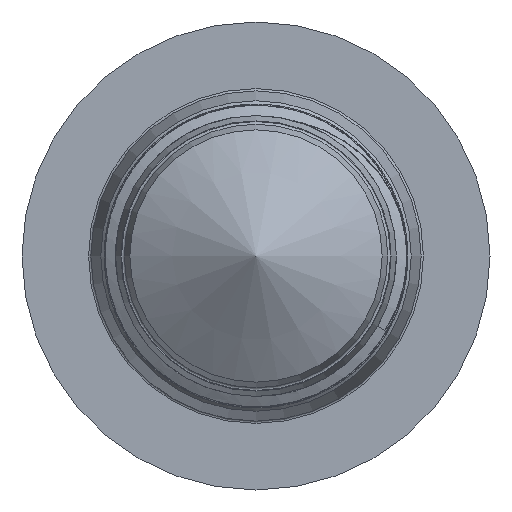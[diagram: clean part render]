
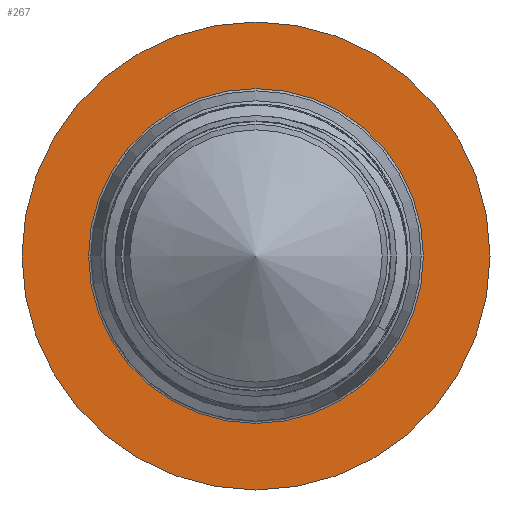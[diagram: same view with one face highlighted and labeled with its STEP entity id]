
A CAD part, left-side view. The second image highlights one B-rep face of the part: STEP entity #267.
In plain terms, the highlighted planar face has unit normal (-1, 0, 0).
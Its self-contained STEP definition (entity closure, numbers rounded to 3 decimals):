
#15=PLANE('',#292);
#20=FACE_BOUND('',#73,.T.);
#50=FACE_OUTER_BOUND('',#72,.T.);
#72=EDGE_LOOP('',(#227));
#73=EDGE_LOOP('',(#228));
#99=CIRCLE('',#291,0.813);
#100=CIRCLE('',#293,0.581);
#143=VERTEX_POINT('',#2288);
#144=VERTEX_POINT('',#2291);
#176=EDGE_CURVE('',#143,#143,#99,.T.);
#177=EDGE_CURVE('',#144,#144,#100,.T.);
#227=ORIENTED_EDGE('',*,*,#176,.T.);
#228=ORIENTED_EDGE('',*,*,#177,.F.);
#267=ADVANCED_FACE('',(#50,#20),#15,.T.);
#291=AXIS2_PLACEMENT_3D('',#2289,#336,#337);
#292=AXIS2_PLACEMENT_3D('',#2290,#338,#339);
#293=AXIS2_PLACEMENT_3D('',#2292,#340,#341);
#336=DIRECTION('center_axis',(-1.,0.,0.));
#337=DIRECTION('ref_axis',(0.,0.,1.));
#338=DIRECTION('center_axis',(-1.,0.,0.));
#339=DIRECTION('ref_axis',(0.,0.,1.));
#340=DIRECTION('center_axis',(-1.,0.,0.));
#341=DIRECTION('ref_axis',(0.,0.,1.));
#2288=CARTESIAN_POINT('',(0.,-0.813,0.));
#2289=CARTESIAN_POINT('Origin',(0.,0.,
0.));
#2290=CARTESIAN_POINT('Origin',(0.,-0.581,
0.));
#2291=CARTESIAN_POINT('',(0.,-0.581,0.));
#2292=CARTESIAN_POINT('Origin',(0.,0.,
0.));
